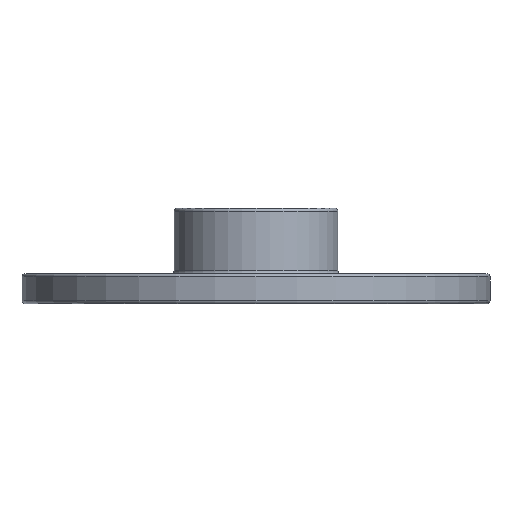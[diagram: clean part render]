
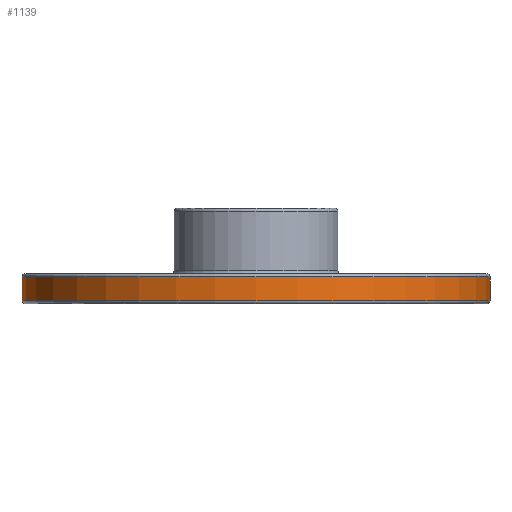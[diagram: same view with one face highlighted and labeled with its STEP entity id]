
A CAD part, front view. The second image highlights one B-rep face of the part: STEP entity #1139.
In plain terms, the highlighted cylindrical face has radius 7.85 mm (diameter 15.7 mm), a partial arc.
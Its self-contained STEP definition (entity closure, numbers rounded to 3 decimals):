
#28 = ORIENTED_EDGE ( 'NONE', *, *, #3448, .T. ) ;
#148 = FACE_OUTER_BOUND ( 'NONE', #580, .T. ) ;
#460 = CIRCLE ( 'NONE', #3231, 7.85 ) ;
#580 = EDGE_LOOP ( 'NONE', ( #3651, #2374, #4440, #28 ) ) ;
#603 = DIRECTION ( 'NONE',  ( 0., 0., -1. ) ) ;
#619 = VERTEX_POINT ( 'NONE', #3099 ) ;
#865 = DIRECTION ( 'NONE',  ( 0., 0., -1. ) ) ;
#1060 = CYLINDRICAL_SURFACE ( 'NONE', #6226, 7.85 ) ;
#1139 = ADVANCED_FACE ( 'NONE', ( #148 ), #1060, .T. ) ;
#1144 = VECTOR ( 'NONE', #1570, 1000. ) ;
#1247 = VERTEX_POINT ( 'NONE', #5591 ) ;
#1570 = DIRECTION ( 'NONE',  ( 0., 0., -1. ) ) ;
#1589 = CARTESIAN_POINT ( 'NONE',  ( -7.85, 0., 1. ) ) ;
#1667 = CIRCLE ( 'NONE', #4264, 7.85 ) ;
#1742 = LINE ( 'NONE', #1589, #1144 ) ;
#2198 = DIRECTION ( 'NONE',  ( 0., 0., -1. ) ) ;
#2374 = ORIENTED_EDGE ( 'NONE', *, *, #4511, .T. ) ;
#2408 = CARTESIAN_POINT ( 'NONE',  ( 7.85, 0., 0.9 ) ) ;
#2723 = CARTESIAN_POINT ( 'NONE',  ( 0., 0., 0.1 ) ) ;
#3099 = CARTESIAN_POINT ( 'NONE',  ( -7.85, 0., 0.1 ) ) ;
#3209 = DIRECTION ( 'NONE',  ( 1., 0., 0. ) ) ;
#3227 = CARTESIAN_POINT ( 'NONE',  ( 7.85, 0., 1. ) ) ;
#3231 = AXIS2_PLACEMENT_3D ( 'NONE', #5648, #865, #4210 ) ;
#3448 = EDGE_CURVE ( 'NONE', #619, #1247, #1667, .T. ) ;
#3651 = ORIENTED_EDGE ( 'NONE', *, *, #4007, .F. ) ;
#3719 = EDGE_CURVE ( 'NONE', #4749, #619, #1742, .T. ) ;
#4007 = EDGE_CURVE ( 'NONE', #5994, #1247, #5039, .T. ) ;
#4210 = DIRECTION ( 'NONE',  ( 1., 0., 0. ) ) ;
#4264 = AXIS2_PLACEMENT_3D ( 'NONE', #2723, #6078, #3209 ) ;
#4440 = ORIENTED_EDGE ( 'NONE', *, *, #3719, .T. ) ;
#4511 = EDGE_CURVE ( 'NONE', #5994, #4749, #460, .T. ) ;
#4749 = VERTEX_POINT ( 'NONE', #4840 ) ;
#4840 = CARTESIAN_POINT ( 'NONE',  ( -7.85, 0., 0.9 ) ) ;
#5039 = LINE ( 'NONE', #3227, #5639 ) ;
#5430 = CARTESIAN_POINT ( 'NONE',  ( 0., 0., 1. ) ) ;
#5455 = DIRECTION ( 'NONE',  ( -1., 0., 0. ) ) ;
#5591 = CARTESIAN_POINT ( 'NONE',  ( 7.85, 0., 0.1 ) ) ;
#5639 = VECTOR ( 'NONE', #2198, 1000. ) ;
#5648 = CARTESIAN_POINT ( 'NONE',  ( 0., 0., 0.9 ) ) ;
#5994 = VERTEX_POINT ( 'NONE', #2408 ) ;
#6078 = DIRECTION ( 'NONE',  ( 0., 0., 1. ) ) ;
#6226 = AXIS2_PLACEMENT_3D ( 'NONE', #5430, #603, #5455 ) ;
